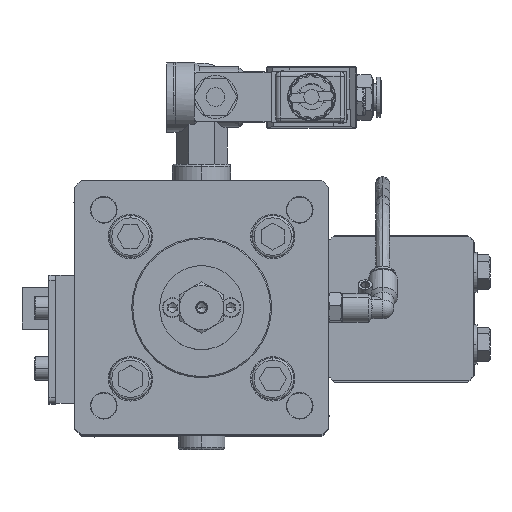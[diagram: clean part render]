
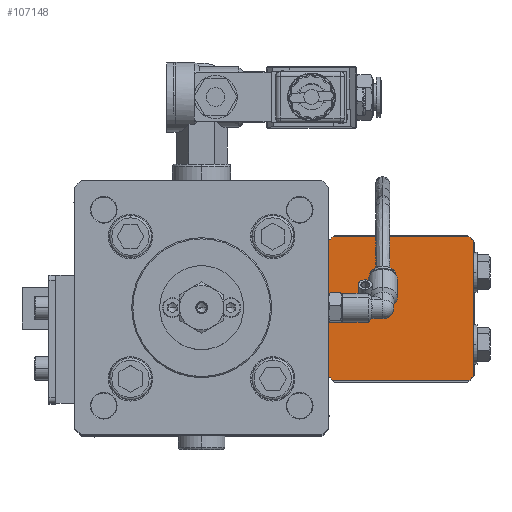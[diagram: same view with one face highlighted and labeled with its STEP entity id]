
A CAD part, top view. The second image highlights one B-rep face of the part: STEP entity #107148.
In plain terms, the highlighted planar face has unit normal (0, 0, 1) as drawn and (0, -1, 0) by its records, which use the part's own axes.
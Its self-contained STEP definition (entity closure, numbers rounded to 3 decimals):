
#5851 = CARTESIAN_POINT ( 'NONE',  ( 29.073, 0., -31. ) ) ;
#6107 = CARTESIAN_POINT ( 'NONE',  ( 31., 0., -31. ) ) ;
#7653 = CARTESIAN_POINT ( 'NONE',  ( 31., 0., -29.073 ) ) ;
#7820 = EDGE_CURVE ( 'NONE', #16941, #11168, #30435, .T. ) ;
#8120 = LINE ( 'NONE', #67664, #27687 ) ;
#8205 = LINE ( 'NONE', #88121, #30352 ) ;
#11130 = CIRCLE ( 'NONE', #107340, 42.5 ) ;
#11168 = VERTEX_POINT ( 'NONE', #20167 ) ;
#13174 = DIRECTION ( 'NONE',  ( 0., -1., 0. ) ) ;
#14496 = ORIENTED_EDGE ( 'NONE', *, *, #99957, .F. ) ;
#15972 = DIRECTION ( 'NONE',  ( 0., 0., -1. ) ) ;
#16941 = VERTEX_POINT ( 'NONE', #92718 ) ;
#17101 = ORIENTED_EDGE ( 'NONE', *, *, #81715, .F. ) ;
#17155 = DIRECTION ( 'NONE',  ( 0., -1., 0. ) ) ;
#20167 = CARTESIAN_POINT ( 'NONE',  ( -29.073, 0., -31. ) ) ;
#23521 = DIRECTION ( 'NONE',  ( 0., 0., 1. ) ) ;
#27687 = VECTOR ( 'NONE', #59340, 1000. ) ;
#30352 = VECTOR ( 'NONE', #55384, 1000. ) ;
#30435 = CIRCLE ( 'NONE', #77598, 42.5 ) ;
#31538 = CARTESIAN_POINT ( 'NONE',  ( 0., 0., 0. ) ) ;
#34048 = VERTEX_POINT ( 'NONE', #7653 ) ;
#36259 = ORIENTED_EDGE ( 'NONE', *, *, #38961, .T. ) ;
#36728 = VECTOR ( 'NONE', #15972, 1000. ) ;
#37639 = EDGE_CURVE ( 'NONE', #64003, #34048, #91668, .T. ) ;
#38731 = CARTESIAN_POINT ( 'NONE',  ( -29.073, 0., 31. ) ) ;
#38961 = EDGE_CURVE ( 'NONE', #86409, #105234, #45914, .T. ) ;
#41682 = VERTEX_POINT ( 'NONE', #59634 ) ;
#41820 = ORIENTED_EDGE ( 'NONE', *, *, #7820, .T. ) ;
#43510 = CARTESIAN_POINT ( 'NONE',  ( 0., 0., 0. ) ) ;
#45003 = EDGE_CURVE ( 'NONE', #41682, #84425, #11130, .T. ) ;
#45914 = CIRCLE ( 'NONE', #60077, 42.5 ) ;
#47492 = ORIENTED_EDGE ( 'NONE', *, *, #64267, .F. ) ;
#48661 = CARTESIAN_POINT ( 'NONE',  ( 0., 0., 0. ) ) ;
#51301 = ORIENTED_EDGE ( 'NONE', *, *, #45003, .T. ) ;
#51878 = DIRECTION ( 'NONE',  ( 0., 0., 1. ) ) ;
#55384 = DIRECTION ( 'NONE',  ( 1., 0., 0. ) ) ;
#57020 = DIRECTION ( 'NONE',  ( 0., 0., 1. ) ) ;
#59284 = AXIS2_PLACEMENT_3D ( 'NONE', #43510, #101623, #51878 ) ;
#59340 = DIRECTION ( 'NONE',  ( 0., 0., 1. ) ) ;
#59634 = CARTESIAN_POINT ( 'NONE',  ( 31., 0., 29.073 ) ) ;
#60077 = AXIS2_PLACEMENT_3D ( 'NONE', #48661, #106798, #57020 ) ;
#61114 = LINE ( 'NONE', #106707, #102706 ) ;
#61585 = FACE_OUTER_BOUND ( 'NONE', #95462, .T. ) ;
#62958 = CARTESIAN_POINT ( 'NONE',  ( 0., 0., 0. ) ) ;
#64003 = VERTEX_POINT ( 'NONE', #5851 ) ;
#64267 = EDGE_CURVE ( 'NONE', #86409, #84425, #8205, .T. ) ;
#64925 = PLANE ( 'NONE',  #107233 ) ;
#65292 = DIRECTION ( 'NONE',  ( -1., 0., 0. ) ) ;
#66915 = CARTESIAN_POINT ( 'NONE',  ( 0., 0., 0. ) ) ;
#67664 = CARTESIAN_POINT ( 'NONE',  ( -31., 0., -31. ) ) ;
#68183 = ORIENTED_EDGE ( 'NONE', *, *, #37639, .T. ) ;
#70109 = EDGE_CURVE ( 'NONE', #16941, #105234, #8120, .T. ) ;
#71316 = DIRECTION ( 'NONE',  ( 0., 0., 1. ) ) ;
#72032 = ORIENTED_EDGE ( 'NONE', *, *, #70109, .F. ) ;
#73311 = DIRECTION ( 'NONE',  ( 0., 1., 0. ) ) ;
#75305 = DIRECTION ( 'NONE',  ( 0., 0., 1. ) ) ;
#76336 = CARTESIAN_POINT ( 'NONE',  ( 29.073, 0., 31. ) ) ;
#77598 = AXIS2_PLACEMENT_3D ( 'NONE', #66915, #17155, #75305 ) ;
#81715 = EDGE_CURVE ( 'NONE', #64003, #11168, #61114, .T. ) ;
#84075 = CARTESIAN_POINT ( 'NONE',  ( -31., 0., 29.073 ) ) ;
#84425 = VERTEX_POINT ( 'NONE', #76336 ) ;
#86409 = VERTEX_POINT ( 'NONE', #38731 ) ;
#88121 = CARTESIAN_POINT ( 'NONE',  ( -31., 0., 31. ) ) ;
#91668 = CIRCLE ( 'NONE', #59284, 42.5 ) ;
#92718 = CARTESIAN_POINT ( 'NONE',  ( -31., 0., -29.073 ) ) ;
#95462 = EDGE_LOOP ( 'NONE', ( #36259, #72032, #41820, #17101, #68183, #14496, #51301, #47492 ) ) ;
#99957 = EDGE_CURVE ( 'NONE', #41682, #34048, #103030, .T. ) ;
#101623 = DIRECTION ( 'NONE',  ( 0., -1., 0. ) ) ;
#102706 = VECTOR ( 'NONE', #65292, 1000. ) ;
#103030 = LINE ( 'NONE', #6107, #36728 ) ;
#105234 = VERTEX_POINT ( 'NONE', #84075 ) ;
#106707 = CARTESIAN_POINT ( 'NONE',  ( -31., 0., -31. ) ) ;
#106798 = DIRECTION ( 'NONE',  ( 0., -1., 0. ) ) ;
#107148 = ADVANCED_FACE ( 'NONE', ( #61585 ), #64925, .F. ) ;
#107233 = AXIS2_PLACEMENT_3D ( 'NONE', #31538, #73311, #23521 ) ;
#107340 = AXIS2_PLACEMENT_3D ( 'NONE', #62958, #13174, #71316 ) ;
